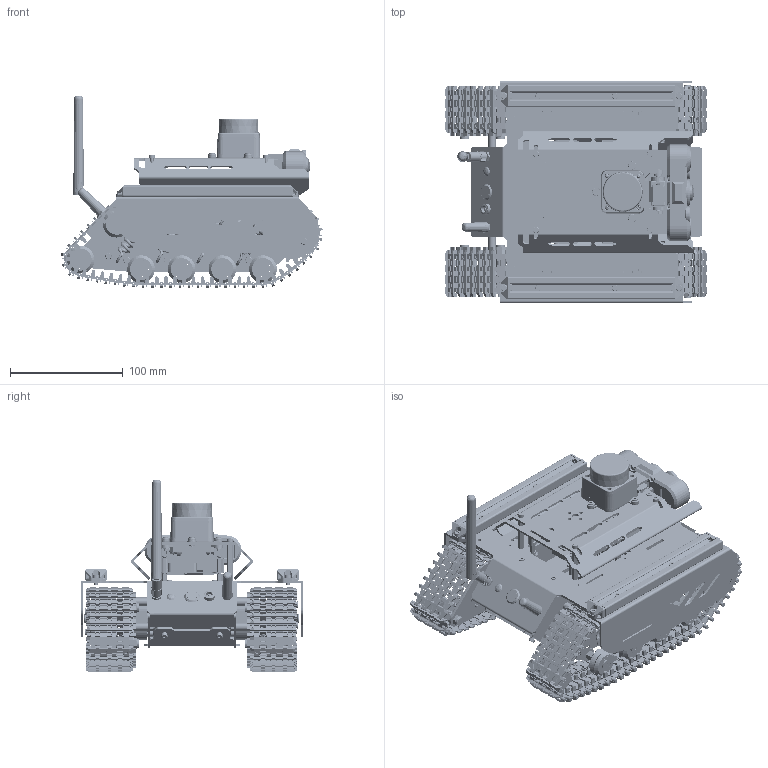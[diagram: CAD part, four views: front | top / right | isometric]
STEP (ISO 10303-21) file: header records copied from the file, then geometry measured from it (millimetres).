
FILE_DESCRIPTION(/* description */ (''),/* implementation_level */ '2;1');
FILE_NAME(/* name */ 'UGV01-X3 v7.step',/* time_stamp */ '2023-01-04T10:55:30+08:00',/* author */ (''),/* organization */ (''),/* preprocessor_version */ 'ST-DEVELOPER v19.2',/* originating_system */ 'Autodesk Translation Framework v11.17.0.187',/* authorisation */ '');
FILE_SCHEMA (('AUTOMOTIVE_DESIGN { 1 0 10303 214 3 1 1 }'));
Products named in the file (176): UGV01-X3; A1; A3; B2; B3; A5; A6; A7; A9; A10; A11; 平面轴承 F6-12; A8; 黑色金属扁平头螺丝 CM3x14x
6; 银色六角铜柱 M5*10; 从动轮; 银色金属扁平头内六角螺丝 
M5*30; GM3865 电机模型; GM3865 电机模型_1; PLA; PCB; OLED 模块; 黑色尼龙圆柱 M3*14; B4; B5; B6; B7; B8; B1; B10; B11; 银色金属隔离柱 M3*25; 联轴器; 黑色金属内六角螺丝 M3.5*4; UPS电源模块; 12V UPS; 1020堵头; 1020铝型材; 1020铝型材_1; A2 ...
Assembly tree (992 placements, depth 6):
  UGV01-X3
    A1
    A2  x2
    A3
    B2
    B3
    A5
    A6
    A7
    A9
    A10
    A11
    平面轴承 F6-12  x8
    黑色金属扁平头螺丝 CM3x14x
6  x8
    A8
    银色六角铜柱 M5*10  x8
    银色金属扁平头内六角螺丝 
M5*30  x8
    从动轮  x12
    GM3865 电机模型
      PLA
      PCB
    GM3865 电机模型_1
      PLA
      PCB
    OLED 模块
    黑色尼龙圆柱 M3*14  x12
    B4
    B5
    B6
    B7
    B8
    B1
    B10
    B11
    银色金属隔离柱 M3*25  x6
    联轴器  x2
    黑色金属内六角螺丝 M3.5*4  x2
    UPS电源模块
      12V UPS
    1020堵头  x4
    1020铝型材
    1020铝型材_1
    A12
    银色金属隔离柱 M5*16  x4
    黑色金属扁平头内六角螺丝 
CM5*35  x4
    黑色金属杯头内六角螺丝 
M3*22  x12
    黑色金属扁平头螺丝 CM2.5*8  x5
    黑色半透明亚克力
    银色金属螺母 M2.5*2  x2
    黑色金属杯头内六角螺丝 
M3_6  x18
    T-UGV mini F
    Mola de Tração Padrão para Gerar Outras  x4
    Mola de Tração Padrão para Gerar Outras v1(镜像)  x4
    黑色金属自锁螺母 M5  x12
    黑色金属防松螺母 M3  x10
    黑色金属防松螺母 M3 v3(镜像)  x10
    MF63ZZ  x17
    银色金属杯头内六角螺丝 
M3*6  x8
    弹性垫片 M4  x2
    弹性垫片 M3  x12
Bounding box: 231.54 x 196.82 x 170.78 mm (x, y, z)
Volume: 779137.3 mm3; surface area: 815700.1 mm2
Topology: 1403 solids, 1412 shells, 39809 faces, 109157 edges, 70150 vertices
Faces by surface type: plane 29240, cylinder 8703, bspline 920, cone 614, torus 309, sphere 23
Full cylindrical faces by diameter (mm): 0.203 x1593, 0.305 x3, 0.5 x4, 0.711 x9, 0.8 x5, 0.914 x10, 0.92 x8, 0.95 x504, 1 x22, 1.001 x2, 1.02 x40, 1.2 x20, 1.5 x8, 1.6 x23, 1.7 x2, 1.702 x2, 1.8 x1, 1.9 x16, 2 x2, 2.01 x1, 2.05 x9, 2.1 x10, 2.2 x1, 2.25 x16, 2.3 x2, 2.337 x2, 2.4 x20, 2.5 x49, 2.6 x27, 2.75 x7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
Entity records: 1123610 total; most frequent: CARTESIAN_POINT 263183, ORIENTED_EDGE 179924, DIRECTION 170066, EDGE_CURVE 91660, LINE 72084, VECTOR 72084, VERTEX_POINT 58637, AXIS2_PLACEMENT_3D 48991
